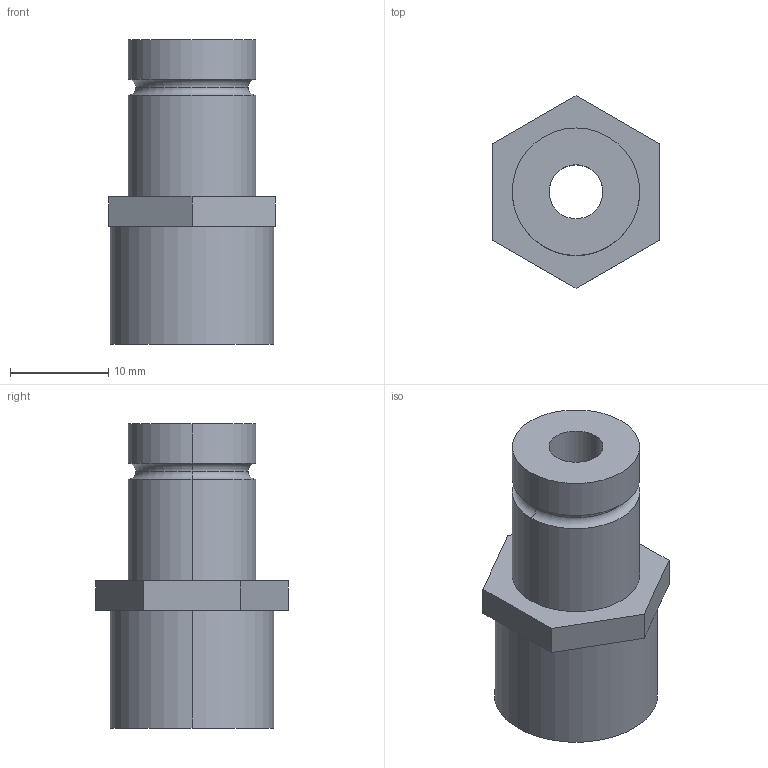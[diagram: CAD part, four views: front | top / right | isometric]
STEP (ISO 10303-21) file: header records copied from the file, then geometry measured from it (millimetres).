
FILE_DESCRIPTION (( 'STEP AP214' ), '1' );
FILE_NAME ('BR811-13- R3-8.STEP', '2020-06-23T08:11:46', ( '' ), ( '' ), 'SwSTEP 2.0', 'SolidWorks 2018', '' );
FILE_SCHEMA (( 'AUTOMOTIVE_DESIGN' ));
Length unit declared in the file: millimetre
Products named in the file (1): BR811-13- R3-8
Bounding box: 17 x 19.63 x 31 mm (x, y, z)
Volume: 4319 mm3; surface area: 2591.1 mm2
Topology: 1 solids, 1 shells, 25 faces, 54 edges, 34 vertices
Faces by surface type: plane 11, cylinder 10, torus 4
Entity records: 724 total; most frequent: DIRECTION 132, CARTESIAN_POINT 114, ORIENTED_EDGE 108, EDGE_CURVE 54, AXIS2_PLACEMENT_3D 52, VERTEX_POINT 34, EDGE_LOOP 30, VECTOR 28
